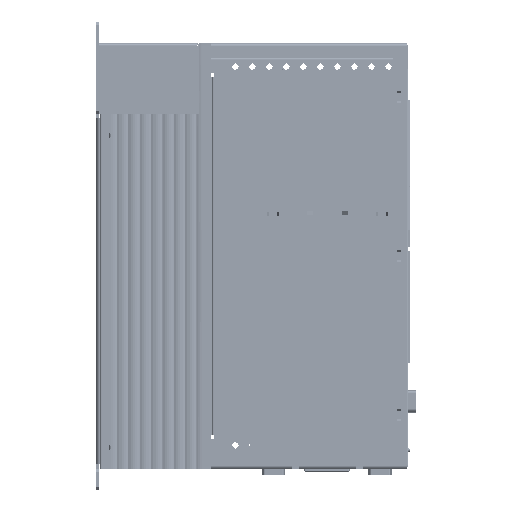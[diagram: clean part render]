
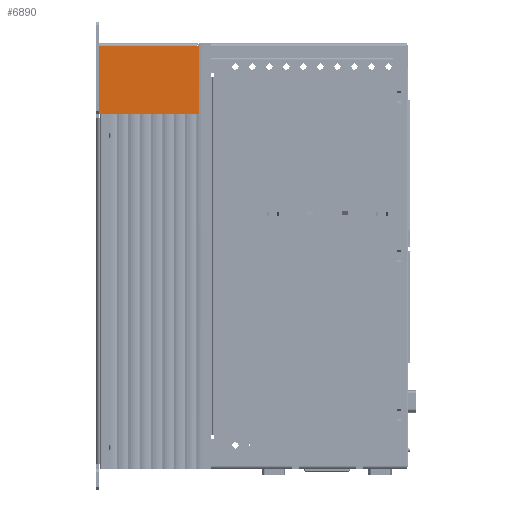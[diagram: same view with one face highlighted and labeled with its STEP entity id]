
A CAD part, left-side view. The second image highlights one B-rep face of the part: STEP entity #6890.
In plain terms, the highlighted planar face has unit normal (-1, 0, 0) as drawn and (1, 0, 0) by its records, which use the part's own axes.
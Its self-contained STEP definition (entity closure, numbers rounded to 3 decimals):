
#1737 = VERTEX_POINT ( 'NONE', #87421 ) ;
#1748 = EDGE_CURVE ( 'NONE', #1752, #1737, #87401, .T. ) ;
#1752 = VERTEX_POINT ( 'NONE', #87480 ) ;
#6831 = EDGE_CURVE ( 'NONE', #6918, #6832, #203010, .T. ) ;
#6832 = VERTEX_POINT ( 'NONE', #203001 ) ;
#6890 = ADVANCED_FACE ( 'NONE', ( #203189 ), #203180, .F. ) ;
#6894 = EDGE_LOOP ( 'NONE', ( #6896, #6898, #6905, #6951, #6955 ) ) ;
#6896 = ORIENTED_EDGE ( 'NONE', *, *, #6831, .T. ) ;
#6898 = ORIENTED_EDGE ( 'NONE', *, *, #6901, .F. ) ;
#6901 = EDGE_CURVE ( 'NONE', #6903, #6832, #201722, .T. ) ;
#6903 = VERTEX_POINT ( 'NONE', #203351 ) ;
#6905 = ORIENTED_EDGE ( 'NONE', *, *, #6908, .F. ) ;
#6908 = EDGE_CURVE ( 'NONE', #1752, #6903, #203329, .T. ) ;
#6918 = VERTEX_POINT ( 'NONE', #203259 ) ;
#6951 = ORIENTED_EDGE ( 'NONE', *, *, #1748, .T. ) ;
#6955 = ORIENTED_EDGE ( 'NONE', *, *, #6958, .T. ) ;
#6958 = EDGE_CURVE ( 'NONE', #1737, #6918, #203371, .T. ) ;
#87401 = LINE ( 'NONE', #87533, #87530 ) ;
#87421 = CARTESIAN_POINT ( 'NONE',  ( 60., 1.8, 69.2 ) ) ;
#87480 = CARTESIAN_POINT ( 'NONE',  ( 60., 1.8, 71. ) ) ;
#87528 = DIRECTION ( 'NONE',  ( 0., 0., -1. ) ) ;
#87530 = VECTOR ( 'NONE', #87528, 1000. ) ;
#87533 = CARTESIAN_POINT ( 'NONE',  ( 60., 1.8, 71. ) ) ;
#200339 = DIRECTION ( 'NONE',  ( 0., 0., -1. ) ) ;
#200342 = VECTOR ( 'NONE', #200339, 1000. ) ;
#201721 = CARTESIAN_POINT ( 'NONE',  ( 60., 50., 71. ) ) ;
#201722 = LINE ( 'NONE', #201721, #200342 ) ;
#203001 = CARTESIAN_POINT ( 'NONE',  ( 60., 50., 0. ) ) ;
#203003 = DIRECTION ( 'NONE',  ( 0., 1., 0. ) ) ;
#203005 = VECTOR ( 'NONE', #203003, 1000. ) ;
#203008 = CARTESIAN_POINT ( 'NONE',  ( 60., 0., 0. ) ) ;
#203010 = LINE ( 'NONE', #203008, #203005 ) ;
#203172 = DIRECTION ( 'NONE',  ( 0., -1., 0. ) ) ;
#203175 = DIRECTION ( 'NONE',  ( -1., 0., 0. ) ) ;
#203176 = CARTESIAN_POINT ( 'NONE',  ( 60., 0., 71. ) ) ;
#203178 = AXIS2_PLACEMENT_3D ( 'NONE', #203176, #203175, #203172 ) ;
#203180 = PLANE ( 'NONE',  #203178 ) ;
#203189 = FACE_OUTER_BOUND ( 'NONE', #6894, .T. ) ;
#203259 = CARTESIAN_POINT ( 'NONE',  ( 60., 1.8, 0. ) ) ;
#203322 = DIRECTION ( 'NONE',  ( 0., 1., 0. ) ) ;
#203325 = VECTOR ( 'NONE', #203322, 1000. ) ;
#203327 = CARTESIAN_POINT ( 'NONE',  ( 60., 0., 71. ) ) ;
#203329 = LINE ( 'NONE', #203327, #203325 ) ;
#203351 = CARTESIAN_POINT ( 'NONE',  ( 60., 50., 71. ) ) ;
#203365 = DIRECTION ( 'NONE',  ( 0., 0., -1. ) ) ;
#203366 = VECTOR ( 'NONE', #203365, 1000. ) ;
#203369 = CARTESIAN_POINT ( 'NONE',  ( 60., 1.8, 71. ) ) ;
#203371 = LINE ( 'NONE', #203369, #203366 ) ;
